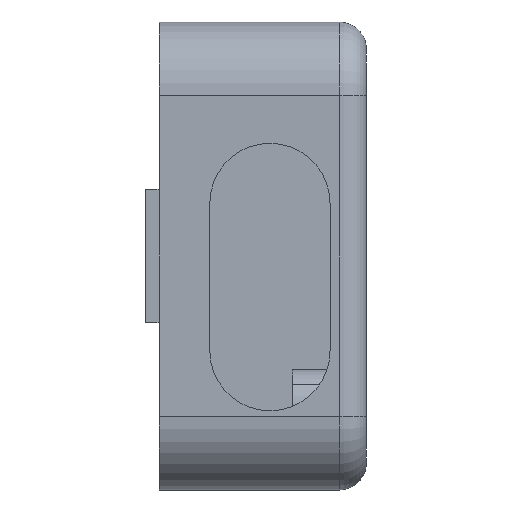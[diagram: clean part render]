
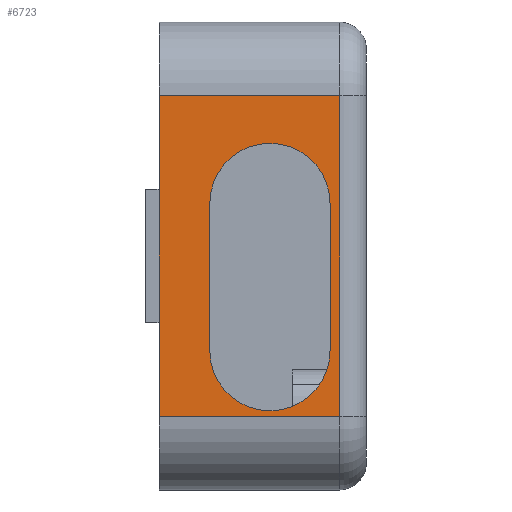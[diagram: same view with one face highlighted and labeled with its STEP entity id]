
A CAD part, left-side view. The second image highlights one B-rep face of the part: STEP entity #6723.
In plain terms, the highlighted planar face has unit normal (-1, 0, 0).
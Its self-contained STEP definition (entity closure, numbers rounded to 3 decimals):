
#850=DIRECTION('',(0.,0.,-1.));
#851=VECTOR('',#850,24.);
#852=CARTESIAN_POINT('',(-35.,10.,12.));
#853=LINE('',#852,#851);
#1774=DIRECTION('',(0.,0.,-1.));
#1775=VECTOR('',#1774,24.);
#1776=CARTESIAN_POINT('',(-35.,-3.5,12.));
#1777=LINE('',#1776,#1775);
#1778=DIRECTION('',(0.,1.,0.));
#1779=VECTOR('',#1778,13.5);
#1780=CARTESIAN_POINT('',(-35.,-3.5,-12.));
#1781=LINE('',#1780,#1779);
#1782=DIRECTION('',(0.,-1.,0.));
#1783=VECTOR('',#1782,13.5);
#1784=CARTESIAN_POINT('',(-35.,10.,12.));
#1785=LINE('',#1784,#1783);
#1786=CARTESIAN_POINT('',(-35.,1.71,-7.075));
#1787=DIRECTION('',(-1.,0.,0.));
#1788=DIRECTION('',(0.,1.,0.));
#1789=AXIS2_PLACEMENT_3D('',#1786,#1787,#1788);
#1791=DIRECTION('',(0.,0.,1.));
#1792=VECTOR('',#1791,11.);
#1793=CARTESIAN_POINT('',(-35.,-2.79,-7.075));
#1794=LINE('',#1793,#1792);
#1795=CARTESIAN_POINT('',(-35.,1.71,3.925));
#1796=DIRECTION('',(-1.,0.,0.));
#1797=DIRECTION('',(0.,-1.,0.));
#1798=AXIS2_PLACEMENT_3D('',#1795,#1796,#1797);
#1800=DIRECTION('',(0.,0.,-1.));
#1801=VECTOR('',#1800,11.);
#1802=CARTESIAN_POINT('',(-35.,6.21,3.925));
#1803=LINE('',#1802,#1801);
#4643=CARTESIAN_POINT('',(-35.,10.,-12.));
#4645=VERTEX_POINT('',#4643);
#4657=CARTESIAN_POINT('',(-35.,10.,12.));
#4658=VERTEX_POINT('',#4657);
#4838=CARTESIAN_POINT('',(-35.,-3.5,12.));
#4840=VERTEX_POINT('',#4838);
#4843=CARTESIAN_POINT('',(-35.,-3.5,-12.));
#4844=VERTEX_POINT('',#4843);
#5735=CARTESIAN_POINT('',(-35.,6.21,-7.075));
#5737=VERTEX_POINT('',#5735);
#5739=CARTESIAN_POINT('',(-35.,-2.79,-7.075));
#5741=VERTEX_POINT('',#5739);
#5743=CARTESIAN_POINT('',(-35.,-2.79,3.925));
#5745=VERTEX_POINT('',#5743);
#5747=CARTESIAN_POINT('',(-35.,6.21,3.925));
#5749=VERTEX_POINT('',#5747);
#6702=CARTESIAN_POINT('',(-35.,10.,12.));
#6703=DIRECTION('',(-1.,0.,0.));
#6704=DIRECTION('',(0.,0.,-1.));
#6705=AXIS2_PLACEMENT_3D('',#6702,#6703,#6704);
#6706=PLANE('',#6705);
#6707=ORIENTED_EDGE('',*,*,#6696,.T.);
#6708=ORIENTED_EDGE('',*,*,#6281,.T.);
#6709=ORIENTED_EDGE('',*,*,#6235,.F.);
#6711=ORIENTED_EDGE('',*,*,#6710,.T.);
#6712=EDGE_LOOP('',(#6707,#6708,#6709,#6711));
#6713=FACE_OUTER_BOUND('',#6712,.F.);
#6715=ORIENTED_EDGE('',*,*,#6714,.T.);
#6716=ORIENTED_EDGE('',*,*,#5809,.T.);
#6718=ORIENTED_EDGE('',*,*,#6717,.T.);
#6720=ORIENTED_EDGE('',*,*,#6719,.T.);
#6721=EDGE_LOOP('',(#6715,#6716,#6718,#6720));
#6722=FACE_BOUND('',#6721,.F.);
#6723=ADVANCED_FACE('',(#6713,#6722),#6706,.T.);
#1790=CIRCLE('',#1789,4.5);
#1799=CIRCLE('',#1798,4.5);
#5809=EDGE_CURVE('',#5741,#5745,#1794,.T.);
#6235=EDGE_CURVE('',#4658,#4645,#853,.T.);
#6281=EDGE_CURVE('',#4844,#4645,#1781,.T.);
#6696=EDGE_CURVE('',#4840,#4844,#1777,.T.);
#6710=EDGE_CURVE('',#4658,#4840,#1785,.T.);
#6714=EDGE_CURVE('',#5737,#5741,#1790,.T.);
#6717=EDGE_CURVE('',#5745,#5749,#1799,.T.);
#6719=EDGE_CURVE('',#5749,#5737,#1803,.T.);
